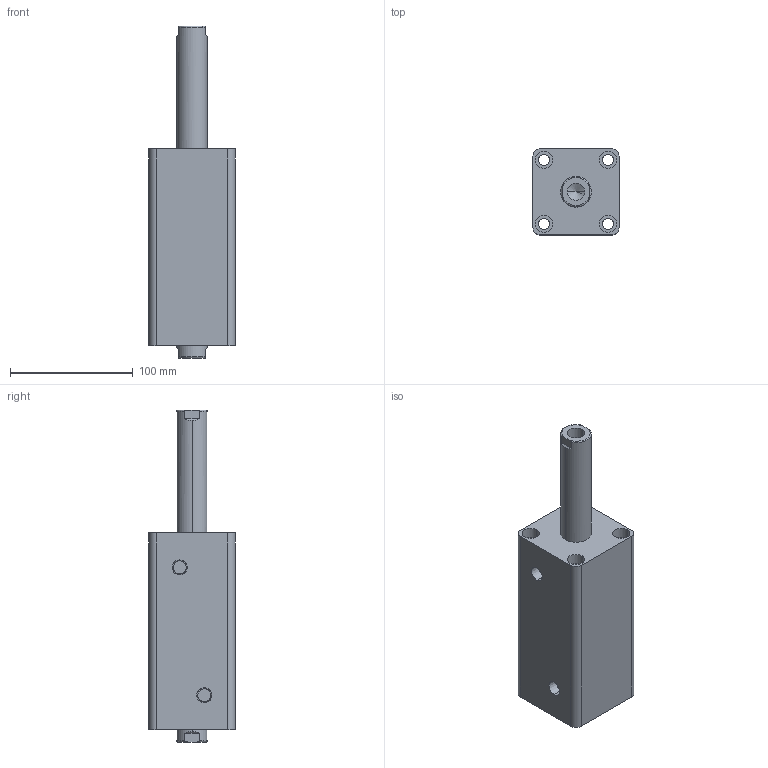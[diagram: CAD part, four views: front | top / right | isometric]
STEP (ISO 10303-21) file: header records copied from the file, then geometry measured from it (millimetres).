
FILE_DESCRIPTION (( 'STEP AP203' ), '1' );
FILE_NAME ('HTB-SW40-90N.STEP', '2019-10-07T09:12:56', ( '微软用户' ), ( '微软中国' ), 'SwSTEP 2.0', 'SolidWorks 2012', '' );
FILE_SCHEMA (( 'CONFIG_CONTROL_DESIGN' ));
Length unit declared in the file: millimetre
Products named in the file (3): HTB-SW40-90N; HTB-SW40-90N活塞杆; HTB-SW40-90掛极
Assembly tree (2 placements, depth 2):
  HTB-SW40-90N
    HTB-SW40-90掛极
    HTB-SW40-90N活塞杆
Bounding box: 70 x 70 x 270 mm (x, y, z)
Volume: 708530.6 mm3; surface area: 116388.8 mm2
Topology: 2 solids, 2 shells, 100 faces, 228 edges, 146 vertices
Faces by surface type: cylinder 48, plane 32, torus 12, cone 8
Entity records: 3237 total; most frequent: CARTESIAN_POINT 595, DIRECTION 542, ORIENTED_EDGE 448, AXIS2_PLACEMENT_3D 229, EDGE_CURVE 224, VERTEX_POINT 146, EDGE_LOOP 128, CIRCLE 124
